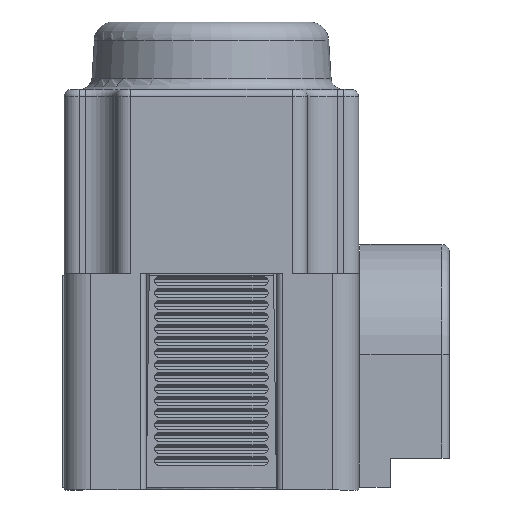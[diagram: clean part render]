
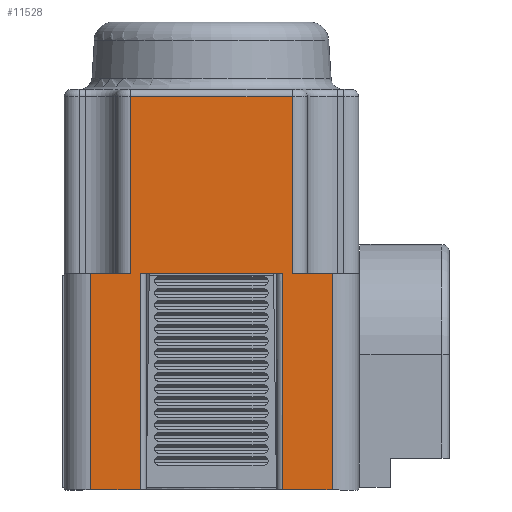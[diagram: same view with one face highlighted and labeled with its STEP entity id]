
A CAD part, left-side view. The second image highlights one B-rep face of the part: STEP entity #11528.
In plain terms, the highlighted planar face has unit normal (-1, 0, 0).
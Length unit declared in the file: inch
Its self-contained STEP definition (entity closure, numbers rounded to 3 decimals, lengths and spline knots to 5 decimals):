
#448=PLANE('',#12864);
#1784=FACE_OUTER_BOUND('',#2476,.T.);
#2476=EDGE_LOOP('',(#9906,#9907,#9908,#9909,#9910,#9911,#9912,#9913,#9914,
#9915,#9916,#9917));
#3197=LINE('',#21033,#3952);
#3210=LINE('',#21103,#3965);
#3333=LINE('',#22691,#4088);
#3351=LINE('',#22746,#4106);
#3352=LINE('',#22750,#4107);
#3355=LINE('',#22769,#4110);
#3368=LINE('',#22838,#4123);
#3369=LINE('',#22842,#4124);
#3370=LINE('',#22843,#4125);
#3371=LINE('',#22845,#4126);
#3372=LINE('',#22847,#4127);
#3373=LINE('',#22848,#4128);
#3952=VECTOR('',#15650,0.3937);
#3965=VECTOR('',#15733,0.3937);
#4088=VECTOR('',#16054,0.3937);
#4106=VECTOR('',#16120,0.3937);
#4107=VECTOR('',#16125,0.3937);
#4110=VECTOR('',#16146,0.3937);
#4123=VECTOR('',#16237,0.3937);
#4124=VECTOR('',#16242,0.3937);
#4125=VECTOR('',#16243,0.3937);
#4126=VECTOR('',#16244,0.3937);
#4127=VECTOR('',#16245,0.3937);
#4128=VECTOR('',#16246,0.3937);
#4981=VERTEX_POINT('',#21025);
#4983=VERTEX_POINT('',#21031);
#5005=VERTEX_POINT('',#21101);
#5141=VERTEX_POINT('',#22688);
#5142=VERTEX_POINT('',#22690);
#5155=VERTEX_POINT('',#22745);
#5156=VERTEX_POINT('',#22749);
#5163=VERTEX_POINT('',#22767);
#5180=VERTEX_POINT('',#22837);
#5181=VERTEX_POINT('',#22841);
#5182=VERTEX_POINT('',#22844);
#5183=VERTEX_POINT('',#22846);
#6459=EDGE_CURVE('',#4983,#4981,#3197,.T.);
#6495=EDGE_CURVE('',#5005,#4983,#3210,.T.);
#6704=EDGE_CURVE('',#5142,#5141,#3333,.T.);
#6732=EDGE_CURVE('',#5155,#4981,#3351,.T.);
#6734=EDGE_CURVE('',#5156,#5155,#3352,.T.);
#6744=EDGE_CURVE('',#5005,#5163,#3355,.T.);
#6778=EDGE_CURVE('',#5180,#5142,#3368,.T.);
#6780=EDGE_CURVE('',#5181,#5163,#3369,.T.);
#6781=EDGE_CURVE('',#5180,#5181,#3370,.T.);
#6782=EDGE_CURVE('',#5182,#5141,#3371,.T.);
#6783=EDGE_CURVE('',#5182,#5183,#3372,.T.);
#6784=EDGE_CURVE('',#5183,#5156,#3373,.T.);
#9906=ORIENTED_EDGE('',*,*,#6459,.F.);
#9907=ORIENTED_EDGE('',*,*,#6495,.F.);
#9908=ORIENTED_EDGE('',*,*,#6744,.T.);
#9909=ORIENTED_EDGE('',*,*,#6780,.F.);
#9910=ORIENTED_EDGE('',*,*,#6781,.F.);
#9911=ORIENTED_EDGE('',*,*,#6778,.T.);
#9912=ORIENTED_EDGE('',*,*,#6704,.T.);
#9913=ORIENTED_EDGE('',*,*,#6782,.F.);
#9914=ORIENTED_EDGE('',*,*,#6783,.T.);
#9915=ORIENTED_EDGE('',*,*,#6784,.T.);
#9916=ORIENTED_EDGE('',*,*,#6734,.T.);
#9917=ORIENTED_EDGE('',*,*,#6732,.T.);
#11528=ADVANCED_FACE('',(#1784),#448,.T.);
#12864=AXIS2_PLACEMENT_3D('',#22840,#16240,#16241);
#15650=DIRECTION('',(0.,-1.,0.));
#15733=DIRECTION('',(0.,0.,1.));
#16054=DIRECTION('',(0.,-1.,0.));
#16120=DIRECTION('',(0.,0.,1.));
#16125=DIRECTION('',(0.,1.,0.));
#16146=DIRECTION('',(0.,1.,0.));
#16237=DIRECTION('',(0.,0.,1.));
#16240=DIRECTION('center_axis',(-1.,0.,0.));
#16241=DIRECTION('ref_axis',(0.,0.,1.));
#16242=DIRECTION('',(0.,0.,1.));
#16243=DIRECTION('',(0.,1.,0.));
#16244=DIRECTION('',(0.,0.,1.));
#16245=DIRECTION('',(0.,-1.,0.));
#16246=DIRECTION('',(0.,0.,1.));
#21025=CARTESIAN_POINT('',(-0.58307,-0.52295,0.65855));
#21031=CARTESIAN_POINT('',(-0.58307,0.14505,0.65855));
#21033=CARTESIAN_POINT('',(-0.58307,0.14505,0.65855));
#21101=CARTESIAN_POINT('',(-0.58307,0.14505,-0.07345));
#21103=CARTESIAN_POINT('',(-0.58307,0.14505,-0.07345));
#22688=CARTESIAN_POINT('',(-0.58307,-0.48295,-0.07345));
#22690=CARTESIAN_POINT('',(-0.58307,0.10505,-0.07345));
#22691=CARTESIAN_POINT('',(-0.58307,0.10505,-0.07345));
#22745=CARTESIAN_POINT('',(-0.58307,-0.52295,-0.07345));
#22746=CARTESIAN_POINT('',(-0.58307,-0.52295,-0.07345));
#22749=CARTESIAN_POINT('',(-0.58307,-0.68795,-0.07345));
#22750=CARTESIAN_POINT('',(-0.58307,-0.68795,-0.07345));
#22767=CARTESIAN_POINT('',(-0.58307,0.31005,-0.07345));
#22769=CARTESIAN_POINT('',(-0.58307,0.14505,-0.07345));
#22837=CARTESIAN_POINT('',(-0.58307,0.10505,-0.96745));
#22838=CARTESIAN_POINT('',(-0.58307,0.10505,-0.96745));
#22840=CARTESIAN_POINT('Origin',(-0.58307,-0.68834,
-0.15445));
#22841=CARTESIAN_POINT('',(-0.58307,0.31005,-0.96745));
#22842=CARTESIAN_POINT('',(-0.58307,0.31005,-0.96745));
#22843=CARTESIAN_POINT('',(-0.58307,0.10505,-0.96745));
#22844=CARTESIAN_POINT('',(-0.58307,-0.48295,-0.96745));
#22845=CARTESIAN_POINT('',(-0.58307,-0.48295,-0.96745));
#22846=CARTESIAN_POINT('',(-0.58307,-0.68795,-0.96745));
#22847=CARTESIAN_POINT('',(-0.58307,-0.48295,-0.96745));
#22848=CARTESIAN_POINT('',(-0.58307,-0.68795,-0.96745));
